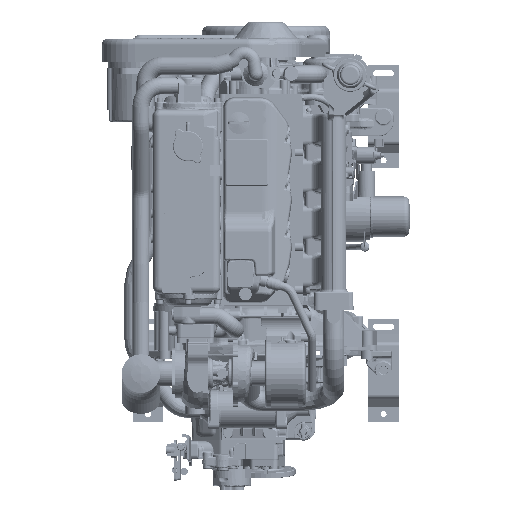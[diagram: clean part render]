
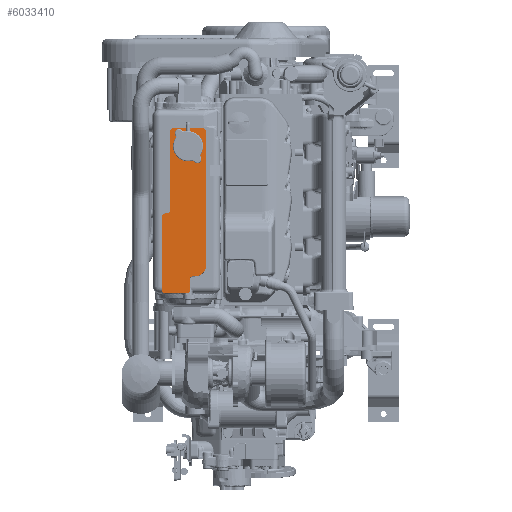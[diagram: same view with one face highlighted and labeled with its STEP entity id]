
A CAD part, top view. The second image highlights one B-rep face of the part: STEP entity #6033410.
In plain terms, the highlighted planar face has unit normal (0, 0, 1) as drawn and (0, 1, 0) by its records, which use the part's own axes.
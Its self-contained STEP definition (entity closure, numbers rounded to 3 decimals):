
#5659950=CARTESIAN_POINT('',(-146.,432.55,17.5));
#5659960=DIRECTION('',(0.,1.,0.));
#5659970=DIRECTION('',(1.,0.,0.));
#5659980=AXIS2_PLACEMENT_3D('',#5659950,#5659960,#5659970);
#5659990=CIRCLE('',#5659980,5.172);
#5660000=CARTESIAN_POINT('',(-146.,432.55,
12.328));
#5660010=VERTEX_POINT('',#5660000);
#5660020=CARTESIAN_POINT('',(-151.172,432.55,
17.5));
#5660030=VERTEX_POINT('',#5660020);
#5660040=EDGE_CURVE('',#5660010,#5660030,#5659990,.T.);
#5933630=CARTESIAN_POINT('',(-151.172,432.55,
40.1));
#5933640=VERTEX_POINT('',#5933630);
#5933720=CARTESIAN_POINT('',(-156.,432.55,
44.928));
#5933730=VERTEX_POINT('',#5933720);
#5933760=CARTESIAN_POINT('',(-156.,432.55,40.1));
#5933770=DIRECTION('',(0.,-1.,0.));
#5933780=DIRECTION('',(-1.,0.,0.));
#5933790=AXIS2_PLACEMENT_3D('',#5933760,#5933770,#5933780);
#5933800=CIRCLE('',#5933790,4.828);
#5933810=EDGE_CURVE('',#5933640,#5933730,#5933800,.T.);
#5934670=CARTESIAN_POINT('',(-134.5,432.55,-247.5));
#5934680=VERTEX_POINT('',#5934670);
#5934710=CARTESIAN_POINT('',(-155.,432.55,-247.5));
#5934720=DIRECTION('',(0.,-1.,0.))
;
#5934730=DIRECTION('',(0.,0.,1.));
#5934740=AXIS2_PLACEMENT_3D('',#5934710,#5934720,#5934730);
#5934750=CIRCLE('',#5934740,20.5);
#5934760=CARTESIAN_POINT('',(-143.242,432.55,-230.707)
);
#5934770=VERTEX_POINT('',#5934760);
#5934780=EDGE_CURVE('',#5934680,#5934770,#5934750,.T.);
#5934800=CARTESIAN_POINT('',(-175.5,432.55,-247.5));
#5934810=VERTEX_POINT('',#5934800);
#5934820=EDGE_CURVE('',#5934770,#5934810,#5934750,.T.);
#5944170=CARTESIAN_POINT('',(-141.5,432.55,-10.5))
;
#5944180=DIRECTION('',(0.,-1.,0.));
#5944190=DIRECTION('',(0.,0.,1.));
#5944200=AXIS2_PLACEMENT_3D('',#5944170,#5944180,#5944190);
#5944210=CIRCLE('',#5944200,22.828);
#5944220=CARTESIAN_POINT('',(-118.672,432.55,
-10.5));
#5944230=VERTEX_POINT('',#5944220);
#5944240=CARTESIAN_POINT('',(-141.5,432.55,
12.328));
#5944250=VERTEX_POINT('',#5944240);
#5944260=EDGE_CURVE('',#5944230,#5944250,#5944210,.T.);
#5971260=CARTESIAN_POINT('',(-182.5,432.55,-275.));
#5971270=DIRECTION('',(0.,-1.,0.))
;
#5971280=DIRECTION('',(0.,0.,1.));
#5971290=AXIS2_PLACEMENT_3D('',#5971260,#5971270,#5971280);
#5971300=CIRCLE('',#5971290,8.828);
#5971310=CARTESIAN_POINT('',(-191.328,432.55,-275.)
);
#5971320=VERTEX_POINT('',#5971310);
#5971330=CARTESIAN_POINT('',(-182.5,432.55,-283.828)
);
#5971340=VERTEX_POINT('',#5971330);
#5971350=EDGE_CURVE('',#5971320,#5971340,#5971300,.T.);
#6032130=CARTESIAN_POINT('',(-206.828,432.55,
-107.55));
#6032140=DIRECTION('',(0.,0.,1.));
#6032150=VECTOR('',#6032140,1.);
#6032160=LINE('',#6032130,#6032150);
#6032170=CARTESIAN_POINT('',(-206.828,432.55,
-107.403));
#6032180=VERTEX_POINT('',#6032170);
#6032190=CARTESIAN_POINT('',(-206.828,432.55,
40.1));
#6032200=VERTEX_POINT('',#6032190);
#6032210=EDGE_CURVE('',#6032180,#6032200,#6032160,.T.);
#6032410=CARTESIAN_POINT('',(-118.622,432.55,
44.978));
#6032420=DIRECTION('',(0.,1.,0.));
#6032430=DIRECTION('',(1.,0.,0.));
#6032440=AXIS2_PLACEMENT_3D('',#6032410,#6032420,#6032430);
#6032450=PLANE('',#6032440);
#6032460=ORIENTED_EDGE('',*,*,#5944260,.F.);
#6032470=CARTESIAN_POINT('',(-146.05,432.55,
12.328));
#6032480=DIRECTION('',(1.,0.,0.));
#6032490=VECTOR('',#6032480,1.);
#6032500=LINE('',#6032470,#6032490);
#6032510=EDGE_CURVE('',#5660010,#5944250,#6032500,.T.);
#6032520=ORIENTED_EDGE('',*,*,#6032510,.T.);
#6032530=ORIENTED_EDGE('',*,*,#5660040,.F.);
#6032540=CARTESIAN_POINT('',(-151.172,432.55,
40.15));
#6032550=DIRECTION('',(0.,0.,-1.));
#6032560=VECTOR('',#6032550,1.);
#6032570=LINE('',#6032540,#6032560);
#6032580=EDGE_CURVE('',#5933640,#5660030,#6032570,.T.);
#6032590=ORIENTED_EDGE('',*,*,#6032580,.T.);
#6032600=ORIENTED_EDGE('',*,*,#5933810,.F.);
#6032610=CARTESIAN_POINT('',(-202.05,432.55,
44.928));
#6032620=DIRECTION('',(1.,0.,0.));
#6032630=VECTOR('',#6032620,1.);
#6032640=LINE('',#6032610,#6032630);
#6032650=CARTESIAN_POINT('',(-202.,432.55,44.928));
#6032660=VERTEX_POINT('',#6032650);
#6032670=EDGE_CURVE('',#6032660,#5933730,#6032640,.T.);
#6032680=ORIENTED_EDGE('',*,*,#6032670,.T.);
#6032690=CARTESIAN_POINT('',(-202.,432.55,40.1));
#6032700=DIRECTION('',(0.,-1.,0.));
#6032710=DIRECTION('',(0.,0.,1.));
#6032720=AXIS2_PLACEMENT_3D('',#6032690,#6032700,#6032710);
#6032730=CIRCLE('',#6032720,4.828);
#6032740=EDGE_CURVE('',#6032660,#6032200,#6032730,.T.);
#6032750=ORIENTED_EDGE('',*,*,#6032740,.F.);
#6032760=ORIENTED_EDGE('',*,*,#6032210,.T.);
#6032770=CARTESIAN_POINT('',(-201.,432.55,-107.5));
#6032780=DIRECTION('',(0.,-1.,0.));
#6032790=DIRECTION('',(-1.,0.,0.));
#6032800=AXIS2_PLACEMENT_3D('',#6032770,#6032780,#6032790);
#6032810=CIRCLE('',#6032800,5.828);
#6032820=CARTESIAN_POINT('',(-201.,432.55,
-113.328));
#6032830=VERTEX_POINT('',#6032820);
#6032840=EDGE_CURVE('',#6032180,#6032830,#6032810,.T.);
#6032850=ORIENTED_EDGE('',*,*,#6032840,.F.);
#6032860=CARTESIAN_POINT('',(-197.45,432.55,
-113.328));
#6032870=DIRECTION('',(-1.,0.,0.));
#6032880=VECTOR('',#6032870,1.);
#6032890=LINE('',#6032860,#6032880);
#6032900=CARTESIAN_POINT('',(-197.5,432.55,-113.328))
;
#6032910=VERTEX_POINT('',#6032900);
#6032920=EDGE_CURVE('',#6032910,#6032830,#6032890,.T.);
#6032930=ORIENTED_EDGE('',*,*,#6032920,.T.);
#6032940=CARTESIAN_POINT('',(-197.5,432.55,-119.5))
;
#6032950=DIRECTION('',(0.,-1.,0.))
;
#6032960=DIRECTION('',(0.,0.,1.));
#6032970=AXIS2_PLACEMENT_3D('',#6032940,#6032950,#6032960);
#6032980=CIRCLE('',#6032970,6.172);
#6032990=CARTESIAN_POINT('',(-191.328,432.55,
-119.5));
#6033000=VERTEX_POINT('',#6032990);
#6033010=EDGE_CURVE('',#6033000,#6032910,#6032980,.T.);
#6033020=ORIENTED_EDGE('',*,*,#6033010,.T.);
#6033030=CARTESIAN_POINT('',(-191.328,432.55,
-275.05));
#6033040=DIRECTION('',(0.,0.,1.));
#6033050=VECTOR('',#6033040,1.);
#6033060=LINE('',#6033030,#6033050);
#6033070=EDGE_CURVE('',#5971320,#6033000,#6033060,.T.);
#6033080=ORIENTED_EDGE('',*,*,#6033070,.T.);
#6033090=ORIENTED_EDGE('',*,*,#5971350,.F.);
#6033100=CARTESIAN_POINT('',(-127.45,432.55,
-283.828));
#6033110=DIRECTION('',(-1.,0.,0.));
#6033120=VECTOR('',#6033110,1.);
#6033130=LINE('',#6033100,#6033120);
#6033140=CARTESIAN_POINT('',(-127.5,432.55,-283.828));
#6033150=VERTEX_POINT('',#6033140);
#6033160=EDGE_CURVE('',#6033150,#5971340,#6033130,.T.);
#6033170=ORIENTED_EDGE('',*,*,#6033160,.T.);
#6033180=CARTESIAN_POINT('',(-127.5,432.55,-275.));
#6033190=DIRECTION('',(0.,-1.,0.));
#6033200=DIRECTION('',(0.,0.,1.));
#6033210=AXIS2_PLACEMENT_3D('',#6033180,#6033190,#6033200);
#6033220=CIRCLE('',#6033210,8.828);
#6033230=CARTESIAN_POINT('',(-118.672,432.55,-275.)
);
#6033240=VERTEX_POINT('',#6033230);
#6033250=EDGE_CURVE('',#6033150,#6033240,#6033220,.T.);
#6033260=ORIENTED_EDGE('',*,*,#6033250,.F.);
#6033270=CARTESIAN_POINT('',(-118.672,432.55,
-10.45));
#6033280=DIRECTION('',(0.,0.,-1.));
#6033290=VECTOR('',#6033280,1.);
#6033300=LINE('',#6033270,#6033290);
#6033310=EDGE_CURVE('',#5944230,#6033240,#6033300,.T.);
#6033320=ORIENTED_EDGE('',*,*,#6033310,.T.);
#6033330=EDGE_LOOP('',(#6033320,#6033260,#6033170,#6033090,#6033080,
#6033020,#6032930,#6032850,#6032760,#6032750,#6032680,#6032600,#6032590,
#6032530,#6032520,#6032460));
#6033340=FACE_OUTER_BOUND('',#6033330,.T.);
#6033350=EDGE_CURVE('',#5934810,#5934680,#5934750,.T.);
#6033360=ORIENTED_EDGE('',*,*,#6033350,.T.);
#6033370=ORIENTED_EDGE('',*,*,#5934820,.T.);
#6033380=ORIENTED_EDGE('',*,*,#5934780,.T.);
#6033390=EDGE_LOOP('',(#6033380,#6033370,#6033360));
#6033400=FACE_BOUND('',#6033390,.T.);
#6033410=ADVANCED_FACE('',(#6033340,#6033400),#6032450,.T.);
